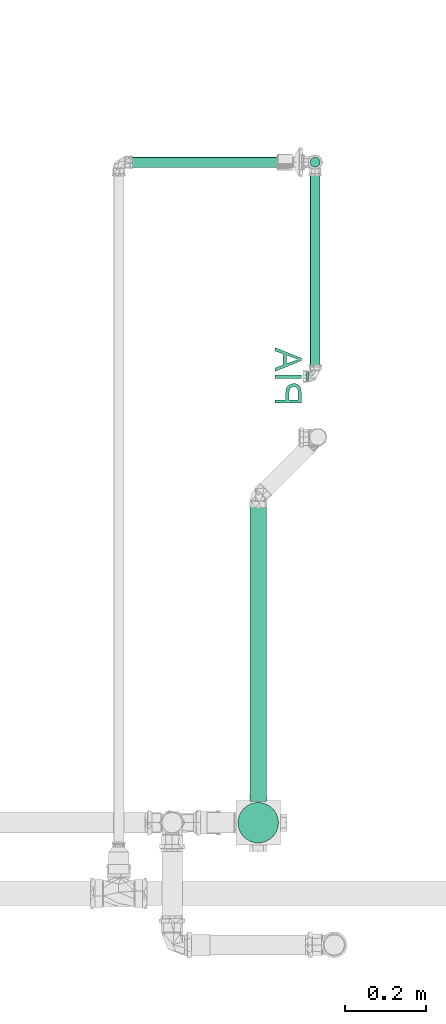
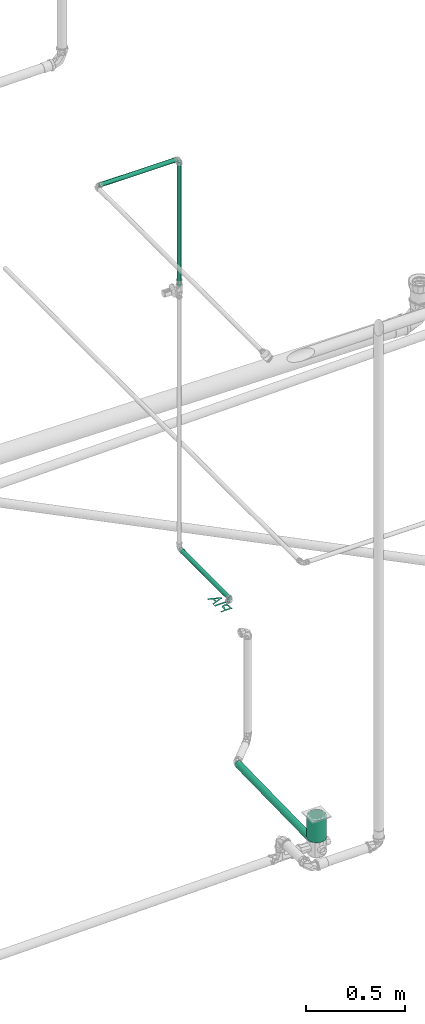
# One storey, part 102 of 589: 5 flow segments, 1 flow terminal.
"""IFC2X3 building model written with IfcOpenShell, lengths in millimetres."""

from ifc_helpers import new_model, entity, si_unit, converted_unit, derived_unit, direction, frame, frame_2d, origin, origin_2d_with_axis, place, context, subcontext, project, spatial, circle, extrude, face_set, surface_model, source, transform, mapped, material, type_object, type_shapes, element, save


model = new_model("IFC2X3")

# Units and contexts
model_context = context("Model", 3, precision=0.01, world=origin(), true_north=direction((6.123031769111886e-17, 1.0)))
body_context = subcontext(model_context, "Body", "Model", "MODEL_VIEW")
ifc_project = project(units=[si_unit("LENGTHUNIT", "METRE", prefix="MILLI"), si_unit("AREAUNIT", "SQUARE_METRE"), si_unit("VOLUMEUNIT", "CUBIC_METRE"), converted_unit("PLANEANGLEUNIT", "DEGREE", entity("IfcRatioMeasure", 0.017453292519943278), si_unit("PLANEANGLEUNIT", "RADIAN"), dimensions=[0, 0, 0, 0, 0, 0, 0]), si_unit("MASSUNIT", "GRAM", prefix="KILO"), derived_unit("MASSDENSITYUNIT", [(si_unit("MASSUNIT", "GRAM", prefix="KILO"), 1), (si_unit("LENGTHUNIT", "METRE"), -3)]), derived_unit("IONCONCENTRATIONUNIT", [(si_unit("MASSUNIT", "GRAM", prefix="KILO"), 1), (si_unit("LENGTHUNIT", "METRE"), -3)]), derived_unit("MOMENTOFINERTIAUNIT", [(si_unit("LENGTHUNIT", "METRE"), 4)]), si_unit("TIMEUNIT", "SECOND"), si_unit("FREQUENCYUNIT", "HERTZ"), si_unit("THERMODYNAMICTEMPERATUREUNIT", "DEGREE_CELSIUS"), derived_unit("THERMALTRANSMITTANCEUNIT", [(si_unit("MASSUNIT", "GRAM", prefix="KILO"), 1), (si_unit("THERMODYNAMICTEMPERATUREUNIT", "KELVIN"), -1), (si_unit("TIMEUNIT", "SECOND"), -3)]), derived_unit("THERMALCONDUCTANCEUNIT", [(si_unit("MASSUNIT", "GRAM", prefix="KILO"), 1), (si_unit("THERMODYNAMICTEMPERATUREUNIT", "KELVIN"), -1), (si_unit("TIMEUNIT", "SECOND"), -3), (si_unit("LENGTHUNIT", "METRE"), 1)]), derived_unit("VOLUMETRICFLOWRATEUNIT", [(si_unit("LENGTHUNIT", "METRE"), 3), (si_unit("TIMEUNIT", "SECOND"), -1)]), derived_unit("MASSFLOWRATEUNIT", [(si_unit("MASSUNIT", "GRAM", prefix="KILO"), 1), (si_unit("TIMEUNIT", "SECOND"), -1)]), derived_unit("ROTATIONALFREQUENCYUNIT", [(si_unit("TIMEUNIT", "SECOND"), -1)]), si_unit("ELECTRICCURRENTUNIT", "AMPERE"), si_unit("ELECTRICVOLTAGEUNIT", "VOLT"), si_unit("POWERUNIT", "WATT"), si_unit("FORCEUNIT", "NEWTON", prefix="KILO"), si_unit("ILLUMINANCEUNIT", "LUX"), si_unit("LUMINOUSFLUXUNIT", "LUMEN"), si_unit("LUMINOUSINTENSITYUNIT", "CANDELA"), derived_unit("USERDEFINED", [(si_unit("MASSUNIT", "GRAM", prefix="KILO"), -1), (si_unit("LENGTHUNIT", "METRE"), -2), (si_unit("TIMEUNIT", "SECOND"), 3), (si_unit("LUMINOUSFLUXUNIT", "LUMEN"), 1)]), derived_unit("USERDEFINED", [(si_unit("MASSUNIT", "GRAM", prefix="KILO"), 1), (si_unit("TIMEUNIT", "SECOND"), -3), (si_unit("LENGTHUNIT", "METRE"), 3), (si_unit("ELECTRICCURRENTUNIT", "AMPERE"), -2)]), derived_unit("SOUNDPOWERUNIT", [(si_unit("MASSUNIT", "GRAM", prefix="KILO"), 1), (si_unit("TIMEUNIT", "SECOND"), -3), (si_unit("LENGTHUNIT", "METRE"), 2)]), derived_unit("SOUNDPRESSUREUNIT", [(si_unit("MASSUNIT", "GRAM", prefix="KILO"), 1), (si_unit("LENGTHUNIT", "METRE"), -1), (si_unit("TIMEUNIT", "SECOND"), -2)]), derived_unit("LINEARVELOCITYUNIT", [(si_unit("LENGTHUNIT", "METRE"), 1), (si_unit("TIMEUNIT", "SECOND"), -1)]), si_unit("PRESSUREUNIT", "PASCAL"), derived_unit("USERDEFINED", [(si_unit("MASSUNIT", "GRAM", prefix="KILO"), 1), (si_unit("LENGTHUNIT", "METRE"), -2), (si_unit("TIMEUNIT", "SECOND"), -2)]), derived_unit("LINEARFORCEUNIT", [(si_unit("MASSUNIT", "GRAM", prefix="KILO"), 1), (si_unit("TIMEUNIT", "SECOND"), -2)]), derived_unit("PLANARFORCEUNIT", [(si_unit("MASSUNIT", "GRAM", prefix="KILO"), 1), (si_unit("LENGTHUNIT", "METRE"), -1), (si_unit("TIMEUNIT", "SECOND"), -2)]), derived_unit("SPECIFICHEATCAPACITYUNIT", [(si_unit("THERMODYNAMICTEMPERATUREUNIT", "KELVIN"), -1), (si_unit("LENGTHUNIT", "METRE"), 2), (si_unit("TIMEUNIT", "SECOND"), -2)]), derived_unit("HEATINGVALUEUNIT", [(si_unit("LENGTHUNIT", "METRE"), 2), (si_unit("TIMEUNIT", "SECOND"), -2)]), derived_unit("VAPORPERMEABILITYUNIT", [(si_unit("LENGTHUNIT", "METRE"), -1), (si_unit("TIMEUNIT", "SECOND"), 1)]), derived_unit("DYNAMICVISCOSITYUNIT", [(si_unit("MASSUNIT", "GRAM", prefix="KILO"), 1), (si_unit("TIMEUNIT", "SECOND"), -1), (si_unit("LENGTHUNIT", "METRE"), -1)]), derived_unit("THERMALEXPANSIONCOEFFICIENTUNIT", [(si_unit("THERMODYNAMICTEMPERATUREUNIT", "KELVIN"), -1)]), derived_unit("MODULUSOFELASTICITYUNIT", [(si_unit("MASSUNIT", "GRAM", prefix="KILO"), 1), (si_unit("LENGTHUNIT", "METRE"), -1), (si_unit("TIMEUNIT", "SECOND"), -2)]), derived_unit("ISOTHERMALMOISTURECAPACITYUNIT", [(si_unit("LENGTHUNIT", "METRE"), 3), (si_unit("MASSUNIT", "GRAM", prefix="KILO"), -1)]), derived_unit("MOISTUREDIFFUSIVITYUNIT", [(si_unit("TIMEUNIT", "SECOND"), -1), (si_unit("LENGTHUNIT", "METRE"), 2)])], contexts=[model_context])

# Site, building, storey
site_placement = place(None, origin())
site = spatial("IfcSite", under=ifc_project, at=site_placement, Name="Default", CompositionType="ELEMENT")
building_placement = place(site_placement, origin())
building = spatial("IfcBuilding", under=site, at=building_placement, CompositionType="ELEMENT")
storey_placement = place(building_placement, frame((0.0, 0.0, 100.0)))
storey = spatial("IfcBuildingStorey", under=building, at=storey_placement, Name="TÉRREO", CompositionType="ELEMENT", Elevation=100.0)

# Flow segments
pipe_segment_type_1 = type_object("IfcPipeSegmentType", Name="Tipos de tubos:PVC Esgoto Série Normal", PredefinedType="NOTDEFINED")
flow_segment_1_placement = place(storey_placement, origin())
element("IfcFlowSegment", 1, at=flow_segment_1_placement, inside=storey, type_object=pipe_segment_type_1, Name="Tipos de tubos:PVC Esgoto Série Normal", ObjectType="Tipos de tubos:PVC Esgoto Série Normal", context=body_context, shape_type="SweptSolid", body=[
    extrude(circle(Radius=20.0, at=frame_2d((0.0, -1.6916415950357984e-14), x_axis=(1.0, 0.0))), frame((-2887.508724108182, -301.3352269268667, -187.41516176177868), z_axis=(0.0, 0.999800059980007, 0.019996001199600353), x_axis=(1.0, 0.0, 0.0)), (0.0, 0.0, 1.0), 740.0407470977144),
])
flow_segment_2_placement = place(storey_placement, origin())
element("IfcFlowSegment", 2, at=flow_segment_2_placement, inside=storey, type_object=pipe_segment_type_1, Name="Tipos de tubos:PVC Esgoto Série Normal", ObjectType="Tipos de tubos:PVC Esgoto Série Normal", context=body_context, shape_type="SweptSolid", body=[
    extrude(circle(Radius=50.0, at=frame_2d((5.414335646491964e-13, -6.767919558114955e-14), x_axis=(1.0, 0.0))), frame((-2887.5087241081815, -354.2352269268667, -143.82141176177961), z_axis=(0.0, 0.0, 1.0), x_axis=(-1.0, 0.0, 0.0)), (0.0, 0.0, 1.0), 137.32141176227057),
])
pipe_segment_type_2 = type_object("IfcPipeSegmentType", Name="Tipos de tubos:PVC Marrom Soldável", PredefinedType="NOTDEFINED")
flow_segment_3_placement = place(storey_placement, origin())
element("IfcFlowSegment", 3, at=flow_segment_3_placement, inside=storey, type_object=pipe_segment_type_2, Name="Tipos de tubos:PVC Marrom Soldável", ObjectType="Tipos de tubos:PVC Marrom Soldável", context=body_context, shape_type="SweptSolid", body=[
    extrude(circle(Radius=12.5, at=origin_2d_with_axis()), frame((-2746.898265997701, 763.6181290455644, 600.0), z_axis=(0.0, 1.0, 0.0), x_axis=(-1.0, 0.0, 0.0)), (0.0, 0.0, 1.0), 496.9430973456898),
])
flow_segment_4_placement = place(storey_placement, origin())
element("IfcFlowSegment", 4, at=flow_segment_4_placement, inside=storey, type_object=pipe_segment_type_2, Name="Tipos de tubos:PVC Marrom Soldável", ObjectType="Tipos de tubos:PVC Marrom Soldável", context=body_context, shape_type="SweptSolid", body=[
    extrude(circle(Radius=12.5, at=origin_2d_with_axis()), frame((-2746.898265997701, 1275.9612263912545, 2220.0), z_axis=(0.0, 0.0, 1.0), x_axis=(-1.0, 0.0, 0.0)), (0.0, 0.0, 1.0), 764.6000000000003),
])
flow_segment_5_placement = place(storey_placement, origin())
element("IfcFlowSegment", 5, at=flow_segment_5_placement, inside=storey, type_object=pipe_segment_type_2, Name="Tipos de tubos:PVC Marrom Soldável", ObjectType="Tipos de tubos:PVC Marrom Soldável", context=body_context, shape_type="SweptSolid", body=[
    extrude(circle(Radius=12.5, at=origin_2d_with_axis()), frame((-3216.3598625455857, 1275.9612263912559, 3000.0), z_axis=(1.0, 0.0, 0.0), x_axis=(0.0, 1.0, 0.0)), (0.0, 0.0, 1.0), 454.06159654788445),
])

# Flow terminal
ifc_material = material(Name="<Unnamed>")
distribution_element_type = type_object("IfcDistributionElementType", Name="Hidráulica_Ponto de Utilização_Uso Provável_Rodrigo MEP:Pia com torneira ou misturador(Peso 0,7)", material=ifc_material)
shared_shape = source(origin(), body_context, "Body", "SurfaceModel", [
    surface_model("IfcFaceBasedSurfaceModel", [(0.0, 83.06704158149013, 11.595272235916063), (0.0, 17.77043998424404, 11.595272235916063), (24.199277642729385, 17.77043998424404, 11.595272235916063), (33.95550815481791, 18.39216055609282, 11.595272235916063), (41.88643083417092, 21.44496797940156, 11.595272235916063), (47.02758171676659, 27.757823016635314, 11.595272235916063), (48.97245119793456, 36.661180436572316, 11.595272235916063), (43.7197094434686, 50.7694549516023, 11.595272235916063), (36.352719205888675, 55.09758662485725, 11.595272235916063), (24.757232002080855, 56.5402971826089, 11.595272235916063), (8.162075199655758, 56.5402971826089, 11.595272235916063), (8.162075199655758, 83.06704158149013, 11.595272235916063), (8.162075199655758, 48.37822198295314, 11.595272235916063), (25.235478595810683, 48.37822198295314, 11.595272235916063), (37.25540965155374, 45.381209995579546, 11.595272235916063), (40.81037599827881, 36.94812839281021, 11.595272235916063), (38.71406176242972, 30.188909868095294, 11.595272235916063), (33.20625515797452, 26.49046954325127, 11.595272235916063), (25.044179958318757, 25.9325151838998, 11.595272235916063), (8.162075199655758, 25.9325151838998, 11.595272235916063), (61.21556399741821, 83.06704158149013, 11.595272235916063), (61.21556399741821, 17.77043998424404, 11.595272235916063), (69.37763919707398, 17.77043998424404, 11.595272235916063), (69.37763919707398, 83.06704158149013, 11.595272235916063), (78.0976687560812, 83.06704158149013, 11.595272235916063), (104.16210811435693, 17.77043998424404, 11.595272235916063), (111.11262527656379, 17.77043998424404, 11.595272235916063), (137.17706463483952, 83.06704158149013, 11.595272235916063), (128.55268439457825, 83.06704158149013, 11.595272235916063), (121.07609597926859, 62.66185358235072, 11.595272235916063), (94.18269585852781, 62.66185358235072, 11.595272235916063), (86.72204899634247, 83.06704158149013, 11.595272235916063), (97.17970784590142, 54.49977838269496, 11.595272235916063), (118.0950255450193, 54.49977838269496, 11.595272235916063), (112.21259244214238, 38.44663438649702, 11.595272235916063), (107.63736669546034, 25.9325151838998, 11.595272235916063), (103.5722706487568, 37.04377771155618, 11.595272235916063), (55.806731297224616, 5.0, 11.595272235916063), (56.14747303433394, 5.0, 14.18346268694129), (57.14647725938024, 5.0, 16.595272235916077), (58.735663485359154, 5.0, 18.666340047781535), (60.80673129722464, 5.0, 20.255526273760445), (63.218540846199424, 5.0, 21.254530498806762), (65.80673129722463, 5.0, 21.59527223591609), (68.39492174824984, 5.0, 21.254530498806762), (70.80673129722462, 5.0, 20.255526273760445), (72.87779910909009, 5.0, 18.666340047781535), (74.46698533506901, 5.0, 16.595272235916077), (75.4659895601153, 5.0, 14.18346268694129), (75.80673129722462, 5.0, 11.595272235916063), (75.46598956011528, 5.0, 9.007081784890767), (74.46698533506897, 5.0, 6.595272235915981), (72.87779910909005, 5.0, 4.524204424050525), (70.80673129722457, 5.0, 2.9350181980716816), (68.39492174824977, 5.0, 1.936013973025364), (65.80673129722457, 5.0, 1.5952722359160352), (63.218540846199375, 5.0, 1.936013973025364), (60.80673129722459, 5.0, 2.9350181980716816), (58.73566348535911, 5.0, 4.524204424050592), (57.14647725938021, 5.0, 6.595272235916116), (56.14747303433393, 5.0, 9.007081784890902), (55.806731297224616, 0.0, 11.595272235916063), (56.14747303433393, 0.0, 9.007081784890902), (57.14647725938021, 0.0, 6.595272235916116), (58.73566348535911, 0.0, 4.524204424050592), (60.80673129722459, 0.0, 2.9350181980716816), (63.218540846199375, 0.0, 1.936013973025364), (65.80673129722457, 0.0, 1.5952722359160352), (68.39492174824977, 0.0, 1.936013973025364), (70.80673129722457, 0.0, 2.9350181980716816), (72.87779910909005, 0.0, 4.524204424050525), (74.46698533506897, 0.0, 6.595272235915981), (75.46598956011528, 0.0, 9.007081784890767), (75.80673129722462, 0.0, 11.595272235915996), (75.4659895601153, 0.0, 14.18346268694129), (74.46698533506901, 0.0, 16.595272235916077), (72.87779910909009, 0.0, 18.666340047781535), (70.80673129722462, 0.0, 20.255526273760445), (68.39492174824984, 0.0, 21.254530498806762), (65.80673129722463, 0.0, 21.59527223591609), (63.218540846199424, 0.0, 21.254530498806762), (60.80673129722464, 0.0, 20.255526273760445), (58.735663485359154, 0.0, 18.666340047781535), (57.14647725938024, 0.0, 16.595272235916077), (56.14747303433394, 0.0, 14.18346268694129)], [face_set([[[0, 1, 2, 3, 4, 5, 6, 7, 8, 9, 10, 11], [12, 13, 14, 15, 16, 17, 18, 19]], [[20, 21, 22, 23]], [[24, 25, 26, 27, 28, 29, 30, 31], [32, 33, 34, 35, 36]]]), face_set([[[37, 38, 39, 40, 41, 42, 43, 44, 45, 46, 47, 48, 49, 50, 51, 52, 53, 54, 55, 56, 57, 58, 59, 60]], [[61, 62, 63, 64, 65, 66, 67, 68, 69, 70, 71, 72, 73, 74, 75, 76, 77, 78, 79, 80, 81, 82, 83, 84]], [[60, 62, 61, 37]], [[59, 63, 62, 60]], [[57, 65, 64, 58]], [[58, 64, 63, 59]], [[56, 66, 65, 57]], [[66, 56, 55, 67]], [[54, 68, 67, 55]], [[53, 69, 68, 54]], [[51, 71, 70, 52]], [[52, 70, 69, 53]], [[50, 72, 71, 51]], [[72, 50, 49, 73]], [[48, 74, 73, 49]], [[47, 75, 74, 48]], [[45, 77, 76, 46]], [[46, 76, 75, 47]], [[44, 78, 77, 45]], [[78, 44, 43, 79]], [[42, 80, 79, 43]], [[41, 81, 80, 42]], [[39, 83, 82, 40]], [[40, 82, 81, 41]], [[38, 84, 83, 39]], [[84, 38, 37, 61]]])]),
])
type_shapes(distribution_element_type, [shared_shape])
flow_terminal_placement = place(storey_placement, frame((-2763.198265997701, 681.5113977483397, 588.4047277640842), z_axis=(0.0, 0.0, 1.0), x_axis=(0.0, 1.0, 0.0)))
element("IfcFlowTerminal", 6, at=flow_terminal_placement, inside=storey, type_object=distribution_element_type, material=ifc_material, Name="Hidráulica_Ponto de Utilização_Uso Provável_Rodrigo MEP:Pia com torneira ou misturador(Peso 0,7)", ObjectType="Hidráulica_Ponto de Utilização_Uso Provável_Rodrigo MEP:Pia com torneira ou misturador(Peso 0,7)", context=body_context, shape_type="MappedRepresentation", body=[
    mapped(shared_shape, transform((0.0, 0.0, 0.0), scale=1.0)),
])

save(model, "model.ifc")
